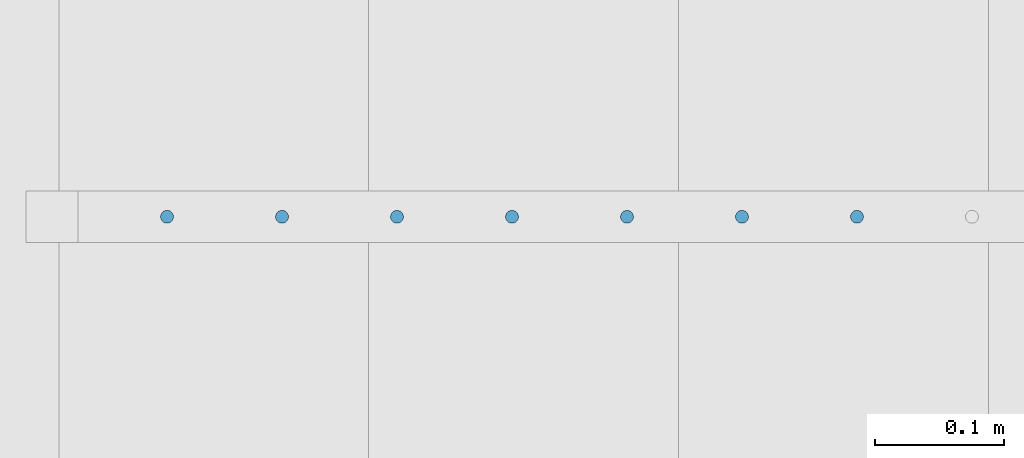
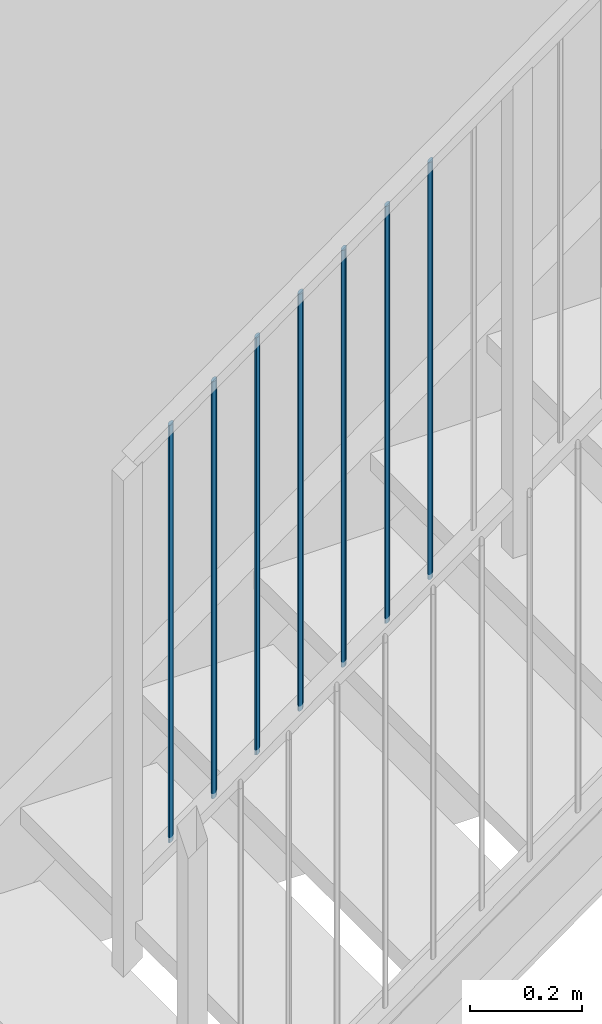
# One storey, part 21 of 135: 7 members, 1 element without a shape of its own.
"""IFC2X3 building model written with IfcOpenShell, lengths in millimetres."""

from ifc_helpers import new_model, entity, si_unit, converted_unit, derived_unit, money_unit, direction, frame, origin_with_axes, place, context, subcontext, project, spatial, faceted_brep, source, transform, mapped, material, type_object, type_shapes, element, aggregate, save


model = new_model("IFC2X3")

# Units and contexts
model_context = context("Model", 3, precision=0.01, world=origin_with_axes(), true_north=direction((0.0, 1.0)))
body_context = subcontext(model_context, "Body", "Model", "MODEL_VIEW")
ifc_project = project(units=[si_unit("LENGTHUNIT", "METRE", prefix="MILLI"), si_unit("AREAUNIT", "SQUARE_METRE"), si_unit("VOLUMEUNIT", "CUBIC_METRE"), converted_unit("PLANEANGLEUNIT", "DEGREE", entity("IfcPlaneAngleMeasure", 0.0174532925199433), si_unit("PLANEANGLEUNIT", "RADIAN"), dimensions=[0, 0, 0, 0, 0, 0, 0]), money_unit("EUR"), converted_unit("TIMEUNIT", "Year", entity("IfcTimeMeasure", 31557600.0), si_unit("TIMEUNIT", "SECOND"), dimensions=[0, 0, 1, 0, 0, 0, 0]), si_unit("MASSUNIT", "GRAM", prefix="KILO"), si_unit("THERMODYNAMICTEMPERATUREUNIT", "DEGREE_CELSIUS"), si_unit("LUMINOUSINTENSITYUNIT", "LUMEN"), si_unit("ENERGYUNIT", "JOULE", prefix="MEGA"), derived_unit("THERMALCONDUCTANCEUNIT", [(si_unit("POWERUNIT", "WATT"), 1), (si_unit("LENGTHUNIT", "METRE"), -1), (si_unit("THERMODYNAMICTEMPERATUREUNIT", "KELVIN"), -1)]), derived_unit("SPECIFICHEATCAPACITYUNIT", [(si_unit("ENERGYUNIT", "JOULE"), 1), (si_unit("MASSUNIT", "GRAM", prefix="KILO"), -1), (si_unit("THERMODYNAMICTEMPERATUREUNIT", "KELVIN"), -1)]), derived_unit("MASSDENSITYUNIT", [(si_unit("MASSUNIT", "GRAM", prefix="KILO"), 1), (si_unit("VOLUMEUNIT", "CUBIC_METRE"), -1)])], contexts=[model_context])

# Site, building, storey
site_placement = place(None, origin_with_axes())
site = spatial("IfcSite", under=ifc_project, at=site_placement, Name="Site", CompositionType="ELEMENT")
building_placement = place(site_placement, origin_with_axes())
building = spatial("IfcBuilding", under=site, at=building_placement, Name="Naam gebouw", CompositionType="ELEMENT")
storey_placement = place(building_placement, origin_with_axes())
storey = spatial("IfcBuildingStorey", under=building, at=storey_placement, Name="Begane grond N", CompositionType="ELEMENT", Elevation=0.0)

# Railing, members
railing_type = type_object("IfcRailingType", Name="Railing Type", PredefinedType="NOTDEFINED")
railing_placement = place(storey_placement, frame((56130.0, 21825.9124251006, 348.1433232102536), z_axis=(0.0, 0.0, 1.0), x_axis=(1.0, 0.0, 0.0)))
railing = element("IfcRailing", 1, at=railing_placement, inside=storey, type_object=railing_type, Name="_Reling-x", PredefinedType="NOTDEFINED")
ifc_material = material(Name="Metaal - Staal C")
member_type = type_object("IfcMemberType", Name="IfcMember", PredefinedType="MEMBER")
shared_shape = source(origin_with_axes(), body_context, "Body", "Brep", [
    faceted_brep([(0.0, -4.999999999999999, -3.602430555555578), (0.8682408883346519, -4.924038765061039, -3.547701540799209), (0.8682408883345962, -4.924038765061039, 903.9522984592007), (0.0, -4.999999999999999, 903.8975694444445), (-0.8682408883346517, -4.924038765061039, -3.547701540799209), (-1.710100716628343, -4.698463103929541, -3.385177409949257), (-2.500000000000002, -4.330127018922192, -3.119796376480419), (-3.213938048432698, -3.830222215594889, -2.759621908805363), (-3.830222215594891, -3.213938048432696, -2.315597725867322), (-4.330127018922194, -2.5, -1.80121527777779), (-4.698463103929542, -1.710100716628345, -1.232103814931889), (-4.924038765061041, -0.8682408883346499, -0.6255555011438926), (-5.0, 0.0, 0.0), (-4.92403876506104, 0.8682408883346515, 0.6255555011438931), (-4.698463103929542, 1.710100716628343, 1.232103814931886), (-4.330127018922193, 2.500000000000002, 1.801215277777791), (-3.83022221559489, 3.213938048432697, 2.315597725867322), (-3.213938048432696, 3.83022221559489, 2.759621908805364), (-2.5, 4.330127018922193, 3.119796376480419), (-1.710100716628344, 4.698463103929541, 3.385177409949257), (-0.8682408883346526, 4.924038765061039, 3.547701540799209), (0.0, 4.999999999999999, 3.602430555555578), (0.8682408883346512, 4.924038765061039, 3.547701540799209), (1.710100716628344, 4.698463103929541, 3.385177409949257), (2.5, 4.330127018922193, 3.119796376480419), (3.213938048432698, 3.830222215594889, 2.759621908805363), (3.83022221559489, 3.213938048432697, 2.315597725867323), (4.330127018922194, 2.499999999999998, 1.801215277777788), (4.698463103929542, 1.710100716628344, 1.232103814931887), (4.92403876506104, 0.8682408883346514, 0.6255555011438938), (5.0, 0.0, 0.0), (4.92403876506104, -0.868240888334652, -0.6255555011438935), (4.698463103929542, -1.710100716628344, -1.232103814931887), (4.330127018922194, -2.5, -1.801215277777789), (3.83022221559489, -3.213938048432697, -2.315597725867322), (3.213938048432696, -3.83022221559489, -2.759621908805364), (2.5, -4.330127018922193, -3.119796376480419), (1.710100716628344, -4.698463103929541, -3.385177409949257), (1.710100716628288, -4.698463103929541, 904.1148225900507), (2.499999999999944, -4.330127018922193, 904.3802036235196), (3.213938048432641, -3.83022221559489, 904.7403780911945), (3.830222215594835, -3.213938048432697, 905.1844022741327), (4.330127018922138, -2.5, 905.6987847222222), (4.698463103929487, -1.710100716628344, 906.2678961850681), (4.924038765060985, -0.868240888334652, 906.8744444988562), (4.999999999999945, 0.0, 907.5), (4.924038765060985, 0.8682408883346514, 908.1255555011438), (4.698463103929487, 1.710100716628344, 908.7321038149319), (4.330127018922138, 2.499999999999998, 909.3012152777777), (3.830222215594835, 3.213938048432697, 909.8155977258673), (3.213938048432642, 3.830222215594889, 910.2596219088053), (2.499999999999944, 4.330127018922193, 910.6197963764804), (1.710100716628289, 4.698463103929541, 910.8851774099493), (0.8682408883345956, 4.924038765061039, 911.0477015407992), (0.0, 4.999999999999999, 911.1024305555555), (-0.8682408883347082, 4.924038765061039, 911.0477015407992), (-1.710100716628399, 4.698463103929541, 910.8851774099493), (-2.500000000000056, 4.330127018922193, 910.6197963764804), (-3.213938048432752, 3.83022221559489, 910.2596219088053), (-3.830222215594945, 3.213938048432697, 909.8155977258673), (-4.330127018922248, 2.500000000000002, 909.3012152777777), (-4.698463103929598, 1.710100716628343, 908.7321038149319), (-4.924038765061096, 0.8682408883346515, 908.1255555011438), (-5.000000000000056, 0.0, 907.5), (-4.924038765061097, -0.8682408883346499, 906.8744444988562), (-4.698463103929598, -1.710100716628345, 906.2678961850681), (-4.330127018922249, -2.5, 905.6987847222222), (-3.830222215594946, -3.213938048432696, 905.1844022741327), (-3.213938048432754, -3.830222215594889, 904.7403780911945), (-2.500000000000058, -4.330127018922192, 904.3802036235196), (-1.710100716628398, -4.698463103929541, 904.1148225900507), (-0.8682408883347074, -4.924038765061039, 903.9522984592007)], [[[0, 1, 2, 3]], [[0, 4, 5, 6, 7, 8, 9, 10, 11, 12, 13, 14, 15, 16, 17, 18, 19, 20, 21, 22, 23, 24, 25, 26, 27, 28, 29, 30, 31, 32, 33, 34, 35, 36, 37, 1]], [[1, 37, 38, 2]], [[3, 2, 38, 39, 40, 41, 42, 43, 44, 45, 46, 47, 48, 49, 50, 51, 52, 53, 54, 55, 56, 57, 58, 59, 60, 61, 62, 63, 64, 65, 66, 67, 68, 69, 70, 71]], [[4, 0, 3, 71]], [[5, 4, 71, 70]], [[6, 5, 70, 69]], [[7, 6, 69, 68]], [[8, 7, 68, 67]], [[9, 8, 67, 66]], [[10, 9, 66, 65]], [[11, 10, 65, 64]], [[12, 11, 64, 63]], [[13, 12, 63, 62]], [[14, 13, 62, 61]], [[15, 14, 61, 60]], [[16, 15, 60, 59]], [[17, 16, 59, 58]], [[18, 17, 58, 57]], [[19, 18, 57, 56]], [[20, 19, 56, 55]], [[21, 20, 55, 54]], [[22, 21, 54, 53]], [[23, 22, 53, 52]], [[24, 23, 52, 51]], [[25, 24, 51, 50]], [[26, 25, 50, 49]], [[27, 26, 49, 48]], [[28, 27, 48, 47]], [[29, 28, 47, 46]], [[30, 29, 46, 45]], [[31, 30, 45, 44]], [[32, 31, 44, 43]], [[33, 32, 43, 42]], [[34, 33, 42, 41]], [[35, 34, 41, 40]], [[36, 35, 40, 39]], [[37, 36, 39, 38]]]),
])
type_shapes(member_type, [shared_shape])
member_1_placement = place(railing_placement, frame((323.739711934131, 24.99999999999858, 134.1858987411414), z_axis=(0.0, 0.0, 1.0), x_axis=(1.0, 0.0, 0.0)))
member_1 = element("IfcMember", 2, at=member_1_placement, type_object=member_type, material=ifc_material, Name="_Spijlen-x", ObjectType="MEMBER", context=body_context, shape_type="MappedRepresentation", body=[
    mapped(shared_shape, transform((0.0, 0.0, 0.0), x_axis=(0.0, -1.0, 0.0), y_axis=(1.0, 0.0, 0.0), z_axis=(0.0, 0.0, 1.0))),
])
member_2_placement = place(railing_placement, frame((412.8266460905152, 24.99999999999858, 198.3717974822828), z_axis=(0.0, 0.0, 1.0), x_axis=(1.0, 0.0, 0.0)))
member_2 = element("IfcMember", 3, at=member_2_placement, type_object=member_type, material=ifc_material, Name="_Spijlen-x", ObjectType="MEMBER", context=body_context, shape_type="MappedRepresentation", body=[
    mapped(shared_shape, transform((0.0, 0.0, 0.0), x_axis=(0.0, -1.0, 0.0), y_axis=(1.0, 0.0, 0.0), z_axis=(0.0, 0.0, 1.0))),
])
member_3_placement = place(railing_placement, frame((501.9135802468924, 24.99999999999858, 262.5576962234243), z_axis=(0.0, 0.0, 1.0), x_axis=(1.0, 0.0, 0.0)))
member_3 = element("IfcMember", 4, at=member_3_placement, type_object=member_type, material=ifc_material, Name="_Spijlen-x", ObjectType="MEMBER", context=body_context, shape_type="MappedRepresentation", body=[
    mapped(shared_shape, transform((0.0, 0.0, 0.0), x_axis=(0.0, -1.0, 0.0), y_axis=(1.0, 0.0, 0.0), z_axis=(0.0, 0.0, 1.0))),
])
member_4_placement = place(railing_placement, frame((591.0005144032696, 24.99999999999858, 326.7435949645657), z_axis=(0.0, 0.0, 1.0), x_axis=(1.0, 0.0, 0.0)))
member_4 = element("IfcMember", 5, at=member_4_placement, type_object=member_type, material=ifc_material, Name="_Spijlen-x", ObjectType="MEMBER", context=body_context, shape_type="MappedRepresentation", body=[
    mapped(shared_shape, transform((0.0, 0.0, 0.0), x_axis=(0.0, -1.0, 0.0), y_axis=(1.0, 0.0, 0.0), z_axis=(0.0, 0.0, 1.0))),
])
member_5_placement = place(railing_placement, frame((680.0874485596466, 24.99999999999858, 390.9294937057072), z_axis=(0.0, 0.0, 1.0), x_axis=(1.0, 0.0, 0.0)))
member_5 = element("IfcMember", 6, at=member_5_placement, type_object=member_type, material=ifc_material, Name="_Spijlen-x", ObjectType="MEMBER", context=body_context, shape_type="MappedRepresentation", body=[
    mapped(shared_shape, transform((0.0, 0.0, 0.0), x_axis=(0.0, -1.0, 0.0), y_axis=(1.0, 0.0, 0.0), z_axis=(0.0, 0.0, 1.0))),
])
member_6_placement = place(railing_placement, frame((769.1743827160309, 24.99999999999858, 455.1153924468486), z_axis=(0.0, 0.0, 1.0), x_axis=(1.0, 0.0, 0.0)))
member_6 = element("IfcMember", 7, at=member_6_placement, type_object=member_type, material=ifc_material, Name="_Spijlen-x", ObjectType="MEMBER", context=body_context, shape_type="MappedRepresentation", body=[
    mapped(shared_shape, transform((0.0, 0.0, 0.0), x_axis=(0.0, -1.0, 0.0), y_axis=(1.0, 0.0, 0.0), z_axis=(0.0, 0.0, 1.0))),
])
member_7_placement = place(railing_placement, frame((858.2613168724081, 24.99999999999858, 519.3012911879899), z_axis=(0.0, 0.0, 1.0), x_axis=(1.0, 0.0, 0.0)))
member_7 = element("IfcMember", 8, at=member_7_placement, type_object=member_type, material=ifc_material, Name="_Spijlen-x", ObjectType="MEMBER", context=body_context, shape_type="MappedRepresentation", body=[
    mapped(shared_shape, transform((0.0, 0.0, 0.0), x_axis=(0.0, -1.0, 0.0), y_axis=(1.0, 0.0, 0.0), z_axis=(0.0, 0.0, 1.0))),
])
aggregate(railing, [member_1, member_2, member_3, member_4, member_5, member_6, member_7])

save(model, "model.ifc")
